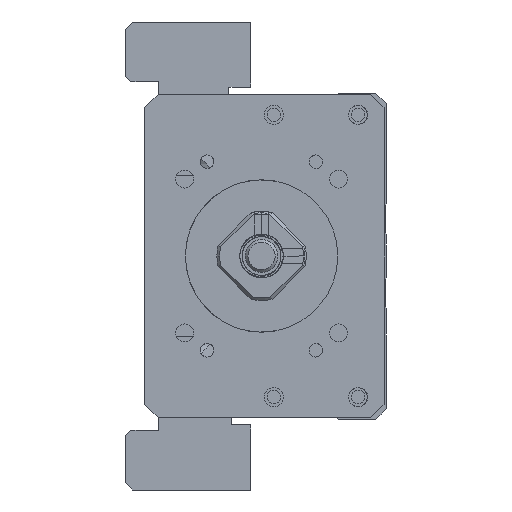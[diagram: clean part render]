
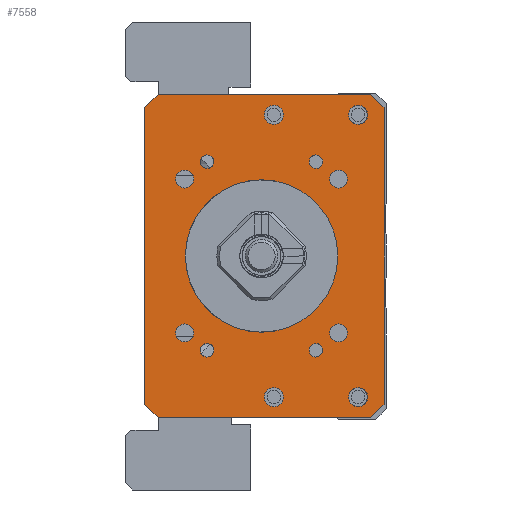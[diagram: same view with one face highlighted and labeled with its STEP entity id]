
A CAD part, left-side view. The second image highlights one B-rep face of the part: STEP entity #7558.
In plain terms, the highlighted planar face has unit normal (-1, 0, 0).
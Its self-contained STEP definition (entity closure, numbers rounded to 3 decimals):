
#5084=LINE('',#24232,#6021);
#5086=LINE('',#24256,#6023);
#5087=LINE('',#24258,#6024);
#5088=LINE('',#24260,#6025);
#5089=LINE('',#24262,#6026);
#5090=LINE('',#24264,#6027);
#5091=LINE('',#24266,#6028);
#5092=LINE('',#24268,#6029);
#6021=VECTOR('',#19917,1.);
#6023=VECTOR('',#19941,1.);
#6024=VECTOR('',#19942,1.);
#6025=VECTOR('',#19943,1.);
#6026=VECTOR('',#19944,1.);
#6027=VECTOR('',#19945,1.);
#6028=VECTOR('',#19946,1.);
#6029=VECTOR('',#19947,1.);
#6868=FACE_BOUND('',#9462,.T.);
#6869=FACE_BOUND('',#9463,.T.);
#6870=FACE_BOUND('',#9464,.T.);
#6871=FACE_BOUND('',#9465,.T.);
#6872=FACE_BOUND('',#9466,.T.);
#6873=FACE_BOUND('',#9467,.T.);
#6874=FACE_BOUND('',#9468,.T.);
#6875=FACE_BOUND('',#9469,.T.);
#6876=FACE_BOUND('',#9470,.T.);
#6877=FACE_BOUND('',#9471,.T.);
#6878=FACE_BOUND('',#9472,.T.);
#6879=FACE_BOUND('',#9473,.T.);
#6880=FACE_BOUND('',#9474,.T.);
#6881=FACE_BOUND('',#9475,.T.);
#7558=ADVANCED_FACE('',(#6868,#6869,#6870,#6871,#6872,#6873,#6874,#6875,
#6876,#6877,#6878,#6879,#6880,#6881),#8102,.F.);
#8102=PLANE('',#17075);
#9462=EDGE_LOOP('',(#12060));
#9463=EDGE_LOOP('',(#12061));
#9464=EDGE_LOOP('',(#12062));
#9465=EDGE_LOOP('',(#12063));
#9466=EDGE_LOOP('',(#12064));
#9467=EDGE_LOOP('',(#12065));
#9468=EDGE_LOOP('',(#12066));
#9469=EDGE_LOOP('',(#12067));
#9470=EDGE_LOOP('',(#12068));
#9471=EDGE_LOOP('',(#12069,#12070,#12071,#12072,#12073,#12074,#12075,#12076));
#9472=EDGE_LOOP('',(#12077));
#9473=EDGE_LOOP('',(#12078));
#9474=EDGE_LOOP('',(#12079));
#9475=EDGE_LOOP('',(#12080));
#12060=ORIENTED_EDGE('',*,*,#15275,.F.);
#12061=ORIENTED_EDGE('',*,*,#15276,.F.);
#12062=ORIENTED_EDGE('',*,*,#15277,.F.);
#12063=ORIENTED_EDGE('',*,*,#15278,.F.);
#12064=ORIENTED_EDGE('',*,*,#15279,.F.);
#12065=ORIENTED_EDGE('',*,*,#15280,.T.);
#12066=ORIENTED_EDGE('',*,*,#15281,.F.);
#12067=ORIENTED_EDGE('',*,*,#15282,.F.);
#12068=ORIENTED_EDGE('',*,*,#15283,.F.);
#12069=ORIENTED_EDGE('',*,*,#15272,.T.);
#12070=ORIENTED_EDGE('',*,*,#15284,.T.);
#12071=ORIENTED_EDGE('',*,*,#15285,.F.);
#12072=ORIENTED_EDGE('',*,*,#15286,.T.);
#12073=ORIENTED_EDGE('',*,*,#15287,.F.);
#12074=ORIENTED_EDGE('',*,*,#15288,.T.);
#12075=ORIENTED_EDGE('',*,*,#15289,.T.);
#12076=ORIENTED_EDGE('',*,*,#15290,.T.);
#12077=ORIENTED_EDGE('',*,*,#15291,.F.);
#12078=ORIENTED_EDGE('',*,*,#15292,.F.);
#12079=ORIENTED_EDGE('',*,*,#15293,.F.);
#12080=ORIENTED_EDGE('',*,*,#15252,.F.);
#13786=VERTEX_POINT('',#24171);
#13806=VERTEX_POINT('',#24231);
#13807=VERTEX_POINT('',#24233);
#13809=VERTEX_POINT('',#24239);
#13810=VERTEX_POINT('',#24241);
#13811=VERTEX_POINT('',#24243);
#13812=VERTEX_POINT('',#24245);
#13813=VERTEX_POINT('',#24247);
#13814=VERTEX_POINT('',#24249);
#13815=VERTEX_POINT('',#24251);
#13816=VERTEX_POINT('',#24253);
#13817=VERTEX_POINT('',#24255);
#13818=VERTEX_POINT('',#24257);
#13819=VERTEX_POINT('',#24259);
#13820=VERTEX_POINT('',#24261);
#13821=VERTEX_POINT('',#24263);
#13822=VERTEX_POINT('',#24265);
#13823=VERTEX_POINT('',#24267);
#13824=VERTEX_POINT('',#24270);
#13825=VERTEX_POINT('',#24272);
#13826=VERTEX_POINT('',#24274);
#15252=EDGE_CURVE('',#13786,#13786,#16027,.T.);
#15272=EDGE_CURVE('',#13807,#13806,#5084,.T.);
#15275=EDGE_CURVE('',#13809,#13809,#16036,.T.);
#15276=EDGE_CURVE('',#13810,#13810,#16037,.T.);
#15277=EDGE_CURVE('',#13811,#13811,#16038,.T.);
#15278=EDGE_CURVE('',#13812,#13812,#16039,.T.);
#15279=EDGE_CURVE('',#13813,#13813,#16040,.T.);
#15280=EDGE_CURVE('',#13814,#13814,#16041,.T.);
#15281=EDGE_CURVE('',#13815,#13815,#16042,.T.);
#15282=EDGE_CURVE('',#13816,#13816,#16043,.T.);
#15283=EDGE_CURVE('',#13817,#13817,#16044,.T.);
#15284=EDGE_CURVE('',#13806,#13818,#5086,.T.);
#15285=EDGE_CURVE('',#13819,#13818,#5087,.T.);
#15286=EDGE_CURVE('',#13819,#13820,#5088,.T.);
#15287=EDGE_CURVE('',#13821,#13820,#5089,.T.);
#15288=EDGE_CURVE('',#13821,#13822,#5090,.T.);
#15289=EDGE_CURVE('',#13822,#13823,#5091,.T.);
#15290=EDGE_CURVE('',#13823,#13807,#5092,.T.);
#15291=EDGE_CURVE('',#13824,#13824,#16045,.T.);
#15292=EDGE_CURVE('',#13825,#13825,#16046,.T.);
#15293=EDGE_CURVE('',#13826,#13826,#16047,.T.);
#16027=CIRCLE('',#17052,14.);
#16036=CIRCLE('',#17063,1.65);
#16037=CIRCLE('',#17064,1.65);
#16038=CIRCLE('',#17065,1.65);
#16039=CIRCLE('',#17066,1.65);
#16040=CIRCLE('',#17067,1.25);
#16041=CIRCLE('',#17068,1.75);
#16042=CIRCLE('',#17069,1.25);
#16043=CIRCLE('',#17070,1.75);
#16044=CIRCLE('',#17071,1.25);
#16045=CIRCLE('',#17072,1.75);
#16046=CIRCLE('',#17073,1.75);
#16047=CIRCLE('',#17074,1.25);
#17052=AXIS2_PLACEMENT_3D('',#24170,#19891,#19892);
#17063=AXIS2_PLACEMENT_3D('',#24238,#19923,#19924);
#17064=AXIS2_PLACEMENT_3D('',#24240,#19925,#19926);
#17065=AXIS2_PLACEMENT_3D('',#24242,#19927,#19928);
#17066=AXIS2_PLACEMENT_3D('',#24244,#19929,#19930);
#17067=AXIS2_PLACEMENT_3D('',#24246,#19931,#19932);
#17068=AXIS2_PLACEMENT_3D('',#24248,#19933,#19934);
#17069=AXIS2_PLACEMENT_3D('',#24250,#19935,#19936);
#17070=AXIS2_PLACEMENT_3D('',#24252,#19937,#19938);
#17071=AXIS2_PLACEMENT_3D('',#24254,#19939,#19940);
#17072=AXIS2_PLACEMENT_3D('',#24269,#19948,#19949);
#17073=AXIS2_PLACEMENT_3D('',#24271,#19950,#19951);
#17074=AXIS2_PLACEMENT_3D('',#24273,#19952,#19953);
#17075=AXIS2_PLACEMENT_3D('',#24275,#19954,#19955);
#19891=DIRECTION('',(-1.,0.,0.));
#19892=DIRECTION('',(0.,1.,0.));
#19917=DIRECTION('',(0.,0.,-1.));
#19923=DIRECTION('',(-1.,0.,0.));
#19924=DIRECTION('',(0.,0.,1.));
#19925=DIRECTION('',(-1.,0.,0.));
#19926=DIRECTION('',(0.,0.,1.));
#19927=DIRECTION('',(-1.,0.,0.));
#19928=DIRECTION('',(0.,0.,1.));
#19929=DIRECTION('',(-1.,0.,0.));
#19930=DIRECTION('',(0.,0.,1.));
#19931=DIRECTION('',(-1.,0.,0.));
#19932=DIRECTION('',(0.,1.,0.));
#19933=DIRECTION('',(1.,0.,0.));
#19934=DIRECTION('',(0.,0.,1.));
#19935=DIRECTION('',(-1.,0.,0.));
#19936=DIRECTION('',(0.,1.,0.));
#19937=DIRECTION('',(-1.,0.,0.));
#19938=DIRECTION('',(0.,0.,1.));
#19939=DIRECTION('',(-1.,0.,0.));
#19940=DIRECTION('',(0.,1.,0.));
#19941=DIRECTION('',(0.,-0.707,-0.707));
#19942=DIRECTION('',(0.,1.,0.));
#19943=DIRECTION('',(0.,-0.707,0.707));
#19944=DIRECTION('',(0.,0.,-1.));
#19945=DIRECTION('',(0.,0.707,0.707));
#19946=DIRECTION('',(0.,1.,0.));
#19947=DIRECTION('',(0.,0.707,-0.707));
#19948=DIRECTION('',(-1.,0.,0.));
#19949=DIRECTION('',(0.,0.,1.));
#19950=DIRECTION('',(-1.,0.,0.));
#19951=DIRECTION('',(0.,0.,1.));
#19952=DIRECTION('',(-1.,0.,0.));
#19953=DIRECTION('',(0.,1.,0.));
#19954=DIRECTION('',(1.,0.,0.));
#19955=DIRECTION('',(0.,1.,0.));
#24170=CARTESIAN_POINT('',(-211.,0.,0.));
#24171=CARTESIAN_POINT('',(-211.,14.,0.));
#24231=CARTESIAN_POINT('',(-211.,21.499,-27.25));
#24232=CARTESIAN_POINT('',(-211.,21.499,29.75));
#24233=CARTESIAN_POINT('',(-211.,21.499,27.25));
#24238=CARTESIAN_POINT('',(-211.,14.142,14.142));
#24239=CARTESIAN_POINT('',(-211.,14.142,15.792));
#24240=CARTESIAN_POINT('',(-211.,-14.142,14.142));
#24241=CARTESIAN_POINT('',(-211.,-14.142,15.792));
#24242=CARTESIAN_POINT('',(-211.,14.142,-14.142));
#24243=CARTESIAN_POINT('',(-211.,14.142,-12.492));
#24244=CARTESIAN_POINT('',(-211.,-14.142,-14.142));
#24245=CARTESIAN_POINT('',(-211.,-14.142,-12.492));
#24246=CARTESIAN_POINT('',(-211.,-10.,-17.321));
#24247=CARTESIAN_POINT('',(-211.,-8.75,-17.321));
#24248=CARTESIAN_POINT('',(-211.,-2.25,-25.936));
#24249=CARTESIAN_POINT('',(-211.,-2.25,-24.186));
#24250=CARTESIAN_POINT('',(-211.,10.,17.321));
#24251=CARTESIAN_POINT('',(-211.,11.25,17.321));
#24252=CARTESIAN_POINT('',(-211.,-2.25,25.936));
#24253=CARTESIAN_POINT('',(-211.,-2.25,27.686));
#24254=CARTESIAN_POINT('',(-211.,10.,-17.321));
#24255=CARTESIAN_POINT('',(-211.,11.25,-17.321));
#24256=CARTESIAN_POINT('',(-211.,18.999,-29.75));
#24257=CARTESIAN_POINT('',(-211.,18.999,-29.75));
#24258=CARTESIAN_POINT('',(-211.,-22.501,-29.75));
#24259=CARTESIAN_POINT('',(-211.,-20.001,-29.75));
#24260=CARTESIAN_POINT('',(-211.,-22.501,-27.25));
#24261=CARTESIAN_POINT('',(-211.,-22.501,-27.25));
#24262=CARTESIAN_POINT('',(-211.,-22.501,29.75));
#24263=CARTESIAN_POINT('',(-211.,-22.501,27.25));
#24264=CARTESIAN_POINT('',(-211.,-22.501,27.25));
#24265=CARTESIAN_POINT('',(-211.,-20.001,29.75));
#24266=CARTESIAN_POINT('',(-211.,-22.501,29.75));
#24267=CARTESIAN_POINT('',(-211.,18.999,29.75));
#24268=CARTESIAN_POINT('',(-211.,18.999,29.75));
#24269=CARTESIAN_POINT('',(-211.,-17.75,25.936));
#24270=CARTESIAN_POINT('',(-211.,-17.75,27.686));
#24271=CARTESIAN_POINT('',(-211.,-17.75,-25.936));
#24272=CARTESIAN_POINT('',(-211.,-17.75,-24.186));
#24273=CARTESIAN_POINT('',(-211.,-10.,17.321));
#24274=CARTESIAN_POINT('',(-211.,-8.75,17.321));
#24275=CARTESIAN_POINT('',(-211.,-22.501,29.75));
